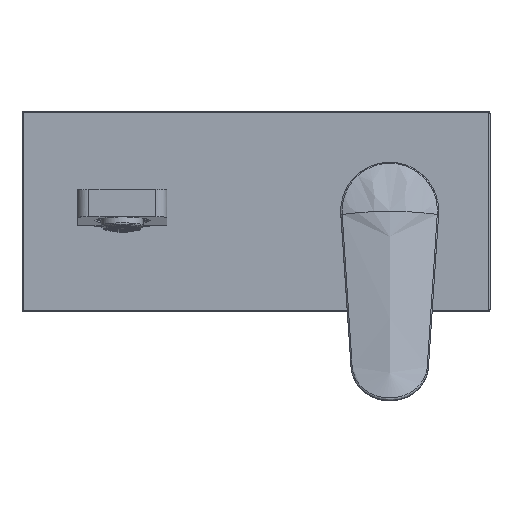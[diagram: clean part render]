
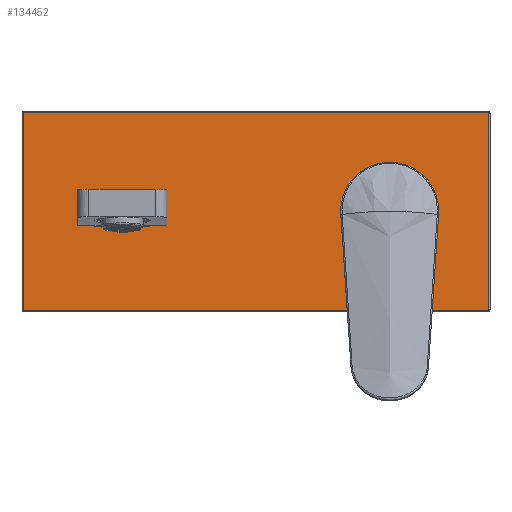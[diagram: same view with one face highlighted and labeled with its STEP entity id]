
A CAD part, top view. The second image highlights one B-rep face of the part: STEP entity #134452.
In plain terms, the highlighted planar face has unit normal (0, 0, 1).
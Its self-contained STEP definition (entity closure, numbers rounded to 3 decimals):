
#28644=CARTESIAN_POINT('',(104.,-44.,7.));
#28645=DIRECTION('',(0.,0.,1.));
#28646=DIRECTION('',(0.,-1.,0.));
#28647=AXIS2_PLACEMENT_3D('',#28644,#28645,#28646);
#28649=DIRECTION('',(1.,0.,0.));
#28650=VECTOR('',#28649,208.);
#28651=CARTESIAN_POINT('',(-104.,-44.5,7.));
#28652=LINE('',#28651,#28650);
#28653=CARTESIAN_POINT('',(-104.,-44.,7.));
#28654=DIRECTION('',(0.,0.,1.));
#28655=DIRECTION('',(-1.,0.,0.));
#28656=AXIS2_PLACEMENT_3D('',#28653,#28654,#28655);
#28658=DIRECTION('',(0.,-1.,0.));
#28659=VECTOR('',#28658,88.);
#28660=CARTESIAN_POINT('',(-104.5,44.,7.));
#28661=LINE('',#28660,#28659);
#28662=CARTESIAN_POINT('',(-104.,44.,7.));
#28663=DIRECTION('',(0.,0.,1.));
#28664=DIRECTION('',(0.,1.,0.));
#28665=AXIS2_PLACEMENT_3D('',#28662,#28663,#28664);
#28667=DIRECTION('',(-1.,0.,0.));
#28668=VECTOR('',#28667,208.);
#28669=CARTESIAN_POINT('',(104.,44.5,7.));
#28670=LINE('',#28669,#28668);
#28671=CARTESIAN_POINT('',(104.,44.,7.));
#28672=DIRECTION('',(0.,0.,1.));
#28673=DIRECTION('',(1.,0.,0.));
#28674=AXIS2_PLACEMENT_3D('',#28671,#28672,#28673);
#28676=DIRECTION('',(0.,1.,0.));
#28677=VECTOR('',#28676,88.);
#28678=CARTESIAN_POINT('',(104.5,-44.,7.));
#28679=LINE('',#28678,#28677);
#28680=CARTESIAN_POINT('',(60.,0.,7.));
#28681=DIRECTION('',(0.,0.,-1.));
#28682=DIRECTION('',(-1.,0.,0.));
#28683=AXIS2_PLACEMENT_3D('',#28680,#28681,#28682);
#28685=CARTESIAN_POINT('',(60.,0.,7.));
#28686=DIRECTION('',(0.,0.,-1.));
#28687=DIRECTION('',(1.,0.,0.));
#28688=AXIS2_PLACEMENT_3D('',#28685,#28686,#28687);
#28690=DIRECTION('',(1.,0.,0.));
#28691=VECTOR('',#28690,6.655);
#28692=CARTESIAN_POINT('',(-79.5,-6.5,7.));
#28693=LINE('',#28692,#28691);
#28694=CARTESIAN_POINT('',(-72.845,-26.5,7.));
#28695=DIRECTION('',(0.,0.,-1.));
#28696=DIRECTION('',(0.,1.,0.));
#28697=AXIS2_PLACEMENT_3D('',#28694,#28695,#28696);
#28699=CARTESIAN_POINT('',(-60.,-0.5,7.));
#28700=DIRECTION('',(0.,0.,1.));
#28701=DIRECTION('',(-0.443,-0.897,0.));
#28702=AXIS2_PLACEMENT_3D('',#28699,#28700,#28701);
#28704=CARTESIAN_POINT('',(-47.155,-26.5,7.));
#28705=DIRECTION('',(0.,0.,1.));
#28706=DIRECTION('',(0.,1.,0.));
#28707=AXIS2_PLACEMENT_3D('',#28704,#28705,#28706);
#28709=DIRECTION('',(1.,0.,0.));
#28710=VECTOR('',#28709,6.655);
#28711=CARTESIAN_POINT('',(-47.155,-6.5,7.));
#28712=LINE('',#28711,#28710);
#28713=CARTESIAN_POINT('',(-40.5,-5.5,7.));
#28714=DIRECTION('',(0.,0.,-1.));
#28715=DIRECTION('',(0.5,-0.866,0.));
#28716=AXIS2_PLACEMENT_3D('',#28713,#28714,#28715);
#28718=DIRECTION('',(0.,1.,0.));
#28719=VECTOR('',#28718,15.866);
#28720=CARTESIAN_POINT('',(-40.,-6.366,7.));
#28721=LINE('',#28720,#28719);
#28722=DIRECTION('',(1.,0.,0.));
#28723=VECTOR('',#28722,40.);
#28724=CARTESIAN_POINT('',(-80.,9.5,7.));
#28725=LINE('',#28724,#28723);
#28726=DIRECTION('',(0.,1.,0.));
#28727=VECTOR('',#28726,15.866);
#28728=CARTESIAN_POINT('',(-80.,-6.366,7.));
#28729=LINE('',#28728,#28727);
#28730=CARTESIAN_POINT('',(-79.5,-5.5,7.));
#28731=DIRECTION('',(0.,0.,-1.));
#28732=DIRECTION('',(0.,-1.,0.));
#28733=AXIS2_PLACEMENT_3D('',#28730,#28731,#28732);
#101305=CARTESIAN_POINT('',(104.,-44.5,7.));
#101306=CARTESIAN_POINT('',(104.5,-44.,7.));
#101307=VERTEX_POINT('',#101305);
#101308=VERTEX_POINT('',#101306);
#101313=CARTESIAN_POINT('',(104.5,44.,7.));
#101314=VERTEX_POINT('',#101313);
#101317=CARTESIAN_POINT('',(104.,44.5,7.));
#101318=VERTEX_POINT('',#101317);
#101321=CARTESIAN_POINT('',(-104.,44.5,7.));
#101322=VERTEX_POINT('',#101321);
#101325=CARTESIAN_POINT('',(-104.5,44.,7.));
#101326=VERTEX_POINT('',#101325);
#101329=CARTESIAN_POINT('',(-104.5,-44.,7.));
#101330=VERTEX_POINT('',#101329);
#101333=CARTESIAN_POINT('',(-104.,-44.5,7.));
#101334=VERTEX_POINT('',#101333);
#101381=CARTESIAN_POINT('',(39.05,0.,7.));
#101382=CARTESIAN_POINT('',(80.95,0.,7.));
#101383=VERTEX_POINT('',#101381);
#101384=VERTEX_POINT('',#101382);
#103826=CARTESIAN_POINT('',(-79.5,-6.5,7.));
#103827=CARTESIAN_POINT('',(-72.845,-6.5,7.));
#103828=VERTEX_POINT('',#103826);
#103829=VERTEX_POINT('',#103827);
#103830=CARTESIAN_POINT('',(-47.155,-6.5,7.));
#103831=CARTESIAN_POINT('',(-40.5,-6.5,7.));
#103832=VERTEX_POINT('',#103830);
#103833=VERTEX_POINT('',#103831);
#103834=CARTESIAN_POINT('',(-63.986,-8.569,7.));
#103835=CARTESIAN_POINT('',(-56.014,-8.569,7.));
#103836=VERTEX_POINT('',#103834);
#103837=VERTEX_POINT('',#103835);
#103838=CARTESIAN_POINT('',(-80.,-6.366,7.));
#103839=VERTEX_POINT('',#103838);
#103840=CARTESIAN_POINT('',(-40.,-6.366,7.));
#103841=VERTEX_POINT('',#103840);
#103846=CARTESIAN_POINT('',(-40.,9.5,7.));
#103847=VERTEX_POINT('',#103846);
#103848=CARTESIAN_POINT('',(-80.,9.5,7.));
#103849=VERTEX_POINT('',#103848);
#134403=CARTESIAN_POINT('',(0.,0.,7.));
#134404=DIRECTION('',(0.,0.,1.));
#134405=DIRECTION('',(1.,0.,0.));
#134406=AXIS2_PLACEMENT_3D('',#134403,#134404,#134405);
#134407=PLANE('',#134406);
#134409=ORIENTED_EDGE('',*,*,#134408,.F.);
#134411=ORIENTED_EDGE('',*,*,#134410,.F.);
#134413=ORIENTED_EDGE('',*,*,#134412,.F.);
#134415=ORIENTED_EDGE('',*,*,#134414,.F.);
#134417=ORIENTED_EDGE('',*,*,#134416,.F.);
#134419=ORIENTED_EDGE('',*,*,#134418,.F.);
#134421=ORIENTED_EDGE('',*,*,#134420,.F.);
#134423=ORIENTED_EDGE('',*,*,#134422,.F.);
#134424=EDGE_LOOP('',(#134409,#134411,#134413,#134415,#134417,#134419,#134421,
#134423));
#134425=FACE_OUTER_BOUND('',#134424,.F.);
#134427=ORIENTED_EDGE('',*,*,#134426,.F.);
#134429=ORIENTED_EDGE('',*,*,#134428,.F.);
#134430=EDGE_LOOP('',(#134427,#134429));
#134431=FACE_BOUND('',#134430,.F.);
#134433=ORIENTED_EDGE('',*,*,#134432,.T.);
#134435=ORIENTED_EDGE('',*,*,#134434,.T.);
#134436=ORIENTED_EDGE('',*,*,#134393,.T.);
#134437=ORIENTED_EDGE('',*,*,#134379,.F.);
#134439=ORIENTED_EDGE('',*,*,#134438,.T.);
#134441=ORIENTED_EDGE('',*,*,#134440,.F.);
#134443=ORIENTED_EDGE('',*,*,#134442,.T.);
#134445=ORIENTED_EDGE('',*,*,#134444,.F.);
#134447=ORIENTED_EDGE('',*,*,#134446,.F.);
#134449=ORIENTED_EDGE('',*,*,#134448,.F.);
#134450=EDGE_LOOP('',(#134433,#134435,#134436,#134437,#134439,#134441,#134443,
#134445,#134447,#134449));
#134451=FACE_BOUND('',#134450,.F.);
#134452=ADVANCED_FACE('',(#134425,#134431,#134451),#134407,.T.);
#28648=CIRCLE('',#28647,0.5);
#28657=CIRCLE('',#28656,0.5);
#28666=CIRCLE('',#28665,0.5);
#28675=CIRCLE('',#28674,0.5);
#28684=CIRCLE('',#28683,20.95);
#28689=CIRCLE('',#28688,20.95);
#28698=CIRCLE('',#28697,20.);
#28703=CIRCLE('',#28702,9.);
#28708=CIRCLE('',#28707,20.);
#28717=CIRCLE('',#28716,1.);
#28734=CIRCLE('',#28733,1.);
#134379=EDGE_CURVE('',#103832,#103837,#28708,.T.);
#134393=EDGE_CURVE('',#103836,#103837,#28703,.T.);
#134408=EDGE_CURVE('',#101307,#101308,#28648,.T.);
#134410=EDGE_CURVE('',#101334,#101307,#28652,.T.);
#134412=EDGE_CURVE('',#101330,#101334,#28657,.T.);
#134414=EDGE_CURVE('',#101326,#101330,#28661,.T.);
#134416=EDGE_CURVE('',#101322,#101326,#28666,.T.);
#134418=EDGE_CURVE('',#101318,#101322,#28670,.T.);
#134420=EDGE_CURVE('',#101314,#101318,#28675,.T.);
#134422=EDGE_CURVE('',#101308,#101314,#28679,.T.);
#134426=EDGE_CURVE('',#101383,#101384,#28684,.T.);
#134428=EDGE_CURVE('',#101384,#101383,#28689,.T.);
#134432=EDGE_CURVE('',#103828,#103829,#28693,.T.);
#134434=EDGE_CURVE('',#103829,#103836,#28698,.T.);
#134438=EDGE_CURVE('',#103832,#103833,#28712,.T.);
#134440=EDGE_CURVE('',#103841,#103833,#28717,.T.);
#134442=EDGE_CURVE('',#103841,#103847,#28721,.T.);
#134444=EDGE_CURVE('',#103849,#103847,#28725,.T.);
#134446=EDGE_CURVE('',#103839,#103849,#28729,.T.);
#134448=EDGE_CURVE('',#103828,#103839,#28734,.T.);
